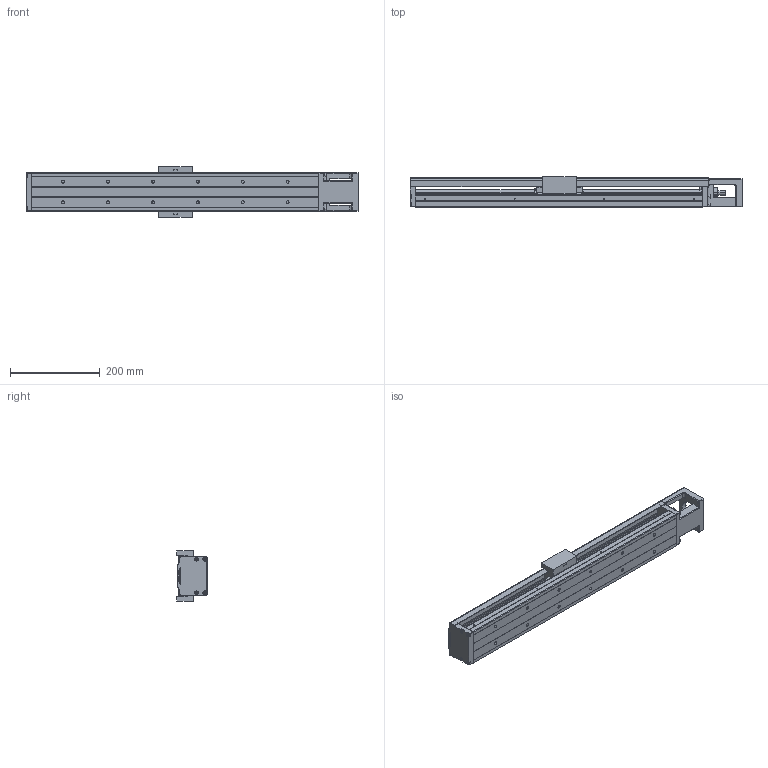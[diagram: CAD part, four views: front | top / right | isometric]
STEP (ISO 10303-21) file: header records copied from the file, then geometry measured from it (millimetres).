
FILE_DESCRIPTION (( 'STEP AP203' ), '1' );
FILE_NAME ('HKK86D20C-640A1-F0C.stp', '2021-11-26T08:19:08', ( '' ), ( '' ), 'SwSTEP 2.0', 'SolidWorks 2018', '' );
FILE_SCHEMA (( 'CONFIG_CONTROL_DESIGN' ));
Length unit declared in the file: millimetre
Products named in the file (1): HKK86D20C-640A1-F0C
Bounding box: 740 x 68 x 112 mm (x, y, z)
Volume: 1809151.7 mm3; surface area: 473834.2 mm2
Topology: 2 solids, 11 shells, 837 faces, 2207 edges, 1396 vertices
Faces by surface type: plane 445, cylinder 289, cone 78, sphere 9, bspline 8, torus 8
Entity records: 26259 total; most frequent: CARTESIAN_POINT 5393, DIRECTION 4353, ORIENTED_EDGE 4282, EDGE_CURVE 2141, AXIS2_PLACEMENT_3D 1463, VECTOR 1427, LINE 1427, VERTEX_POINT 1392
